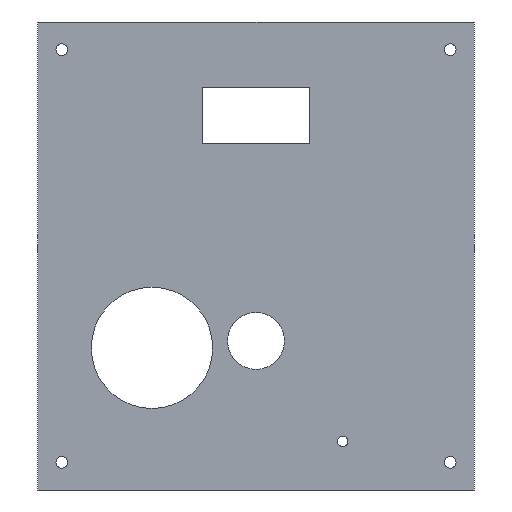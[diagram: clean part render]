
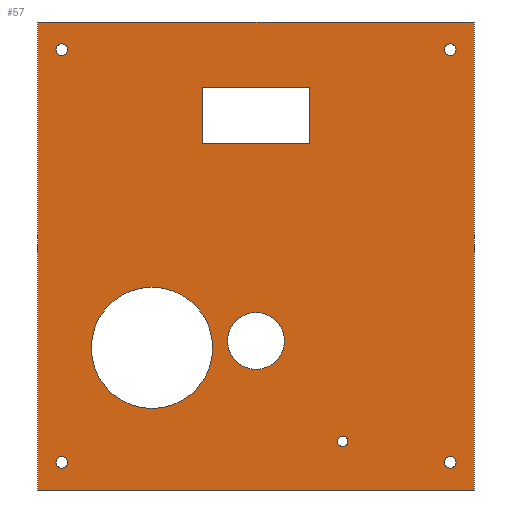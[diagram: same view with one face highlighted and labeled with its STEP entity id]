
A CAD part, front view. The second image highlights one B-rep face of the part: STEP entity #57.
In plain terms, the highlighted planar face has unit normal (0, -1, 0).
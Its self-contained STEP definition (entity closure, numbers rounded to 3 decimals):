
#21 = EDGE_CURVE('',#22,#24,#26,.T.);
#22 = VERTEX_POINT('',#23);
#23 = CARTESIAN_POINT('',(-63.,0.,206.));
#24 = VERTEX_POINT('',#25);
#25 = CARTESIAN_POINT('',(-63.,0.,341.));
#26 = LINE('',#27,#28);
#27 = CARTESIAN_POINT('',(-63.,0.,206.));
#28 = VECTOR('',#29,1.);
#29 = DIRECTION('',(0.,0.,1.));
#57 = ADVANCED_FACE('',(#58,#83,#94,#105,#116,#127,#138,#149,#183),#194,
  .F.);
#58 = FACE_BOUND('',#59,.F.);
#59 = EDGE_LOOP('',(#60,#68,#69,#77));
#60 = ORIENTED_EDGE('',*,*,#61,.F.);
#61 = EDGE_CURVE('',#22,#62,#64,.T.);
#62 = VERTEX_POINT('',#63);
#63 = CARTESIAN_POINT('',(63.,0.,206.));
#64 = LINE('',#65,#66);
#65 = CARTESIAN_POINT('',(-63.,0.,206.));
#66 = VECTOR('',#67,1.);
#67 = DIRECTION('',(1.,0.,0.));
#68 = ORIENTED_EDGE('',*,*,#21,.T.);
#69 = ORIENTED_EDGE('',*,*,#70,.T.);
#70 = EDGE_CURVE('',#24,#71,#73,.T.);
#71 = VERTEX_POINT('',#72);
#72 = CARTESIAN_POINT('',(63.,0.,341.));
#73 = LINE('',#74,#75);
#74 = CARTESIAN_POINT('',(-63.,0.,341.));
#75 = VECTOR('',#76,1.);
#76 = DIRECTION('',(1.,0.,0.));
#77 = ORIENTED_EDGE('',*,*,#78,.F.);
#78 = EDGE_CURVE('',#62,#71,#79,.T.);
#79 = LINE('',#80,#81);
#80 = CARTESIAN_POINT('',(63.,0.,206.));
#81 = VECTOR('',#82,1.);
#82 = DIRECTION('',(0.,0.,1.));
#83 = FACE_BOUND('',#84,.F.);
#84 = EDGE_LOOP('',(#85));
#85 = ORIENTED_EDGE('',*,*,#86,.F.);
#86 = EDGE_CURVE('',#87,#87,#89,.T.);
#87 = VERTEX_POINT('',#88);
#88 = CARTESIAN_POINT('',(-56.,0.,215.7));
#89 = CIRCLE('',#90,1.7);
#90 = AXIS2_PLACEMENT_3D('',#91,#92,#93);
#91 = CARTESIAN_POINT('',(-56.,0.,214.));
#92 = DIRECTION('',(0.,1.,0.));
#93 = DIRECTION('',(0.,0.,1.));
#94 = FACE_BOUND('',#95,.F.);
#95 = EDGE_LOOP('',(#96));
#96 = ORIENTED_EDGE('',*,*,#97,.F.);
#97 = EDGE_CURVE('',#98,#98,#100,.T.);
#98 = VERTEX_POINT('',#99);
#99 = CARTESIAN_POINT('',(-30.,0.,264.5));
#100 = CIRCLE('',#101,17.5);
#101 = AXIS2_PLACEMENT_3D('',#102,#103,#104);
#102 = CARTESIAN_POINT('',(-30.,0.,247.));
#103 = DIRECTION('',(0.,1.,0.));
#104 = DIRECTION('',(0.,0.,1.));
#105 = FACE_BOUND('',#106,.F.);
#106 = EDGE_LOOP('',(#107));
#107 = ORIENTED_EDGE('',*,*,#108,.F.);
#108 = EDGE_CURVE('',#109,#109,#111,.T.);
#109 = VERTEX_POINT('',#110);
#110 = CARTESIAN_POINT('',(-56.,0.,334.7));
#111 = CIRCLE('',#112,1.7);
#112 = AXIS2_PLACEMENT_3D('',#113,#114,#115);
#113 = CARTESIAN_POINT('',(-56.,0.,333.));
#114 = DIRECTION('',(0.,1.,0.));
#115 = DIRECTION('',(0.,0.,1.));
#116 = FACE_BOUND('',#117,.F.);
#117 = EDGE_LOOP('',(#118));
#118 = ORIENTED_EDGE('',*,*,#119,.F.);
#119 = EDGE_CURVE('',#120,#120,#122,.T.);
#120 = VERTEX_POINT('',#121);
#121 = CARTESIAN_POINT('',(25.,0.,221.5));
#122 = CIRCLE('',#123,1.5);
#123 = AXIS2_PLACEMENT_3D('',#124,#125,#126);
#124 = CARTESIAN_POINT('',(25.,0.,220.));
#125 = DIRECTION('',(0.,1.,0.));
#126 = DIRECTION('',(0.,0.,1.));
#127 = FACE_BOUND('',#128,.F.);
#128 = EDGE_LOOP('',(#129));
#129 = ORIENTED_EDGE('',*,*,#130,.F.);
#130 = EDGE_CURVE('',#131,#131,#133,.T.);
#131 = VERTEX_POINT('',#132);
#132 = CARTESIAN_POINT('',(0.,0.,257.2));
#133 = CIRCLE('',#134,8.2);
#134 = AXIS2_PLACEMENT_3D('',#135,#136,#137);
#135 = CARTESIAN_POINT('',(0.,0.,249.));
#136 = DIRECTION('',(0.,1.,0.));
#137 = DIRECTION('',(0.,0.,1.));
#138 = FACE_BOUND('',#139,.F.);
#139 = EDGE_LOOP('',(#140));
#140 = ORIENTED_EDGE('',*,*,#141,.F.);
#141 = EDGE_CURVE('',#142,#142,#144,.T.);
#142 = VERTEX_POINT('',#143);
#143 = CARTESIAN_POINT('',(56.,0.,215.7));
#144 = CIRCLE('',#145,1.7);
#145 = AXIS2_PLACEMENT_3D('',#146,#147,#148);
#146 = CARTESIAN_POINT('',(56.,0.,214.));
#147 = DIRECTION('',(0.,1.,0.));
#148 = DIRECTION('',(0.,0.,1.));
#149 = FACE_BOUND('',#150,.F.);
#150 = EDGE_LOOP('',(#151,#161,#169,#177));
#151 = ORIENTED_EDGE('',*,*,#152,.F.);
#152 = EDGE_CURVE('',#153,#155,#157,.T.);
#153 = VERTEX_POINT('',#154);
#154 = CARTESIAN_POINT('',(-15.5,0.,322.15));
#155 = VERTEX_POINT('',#156);
#156 = CARTESIAN_POINT('',(15.5,0.,322.15));
#157 = LINE('',#158,#159);
#158 = CARTESIAN_POINT('',(-39.25,0.,322.15));
#159 = VECTOR('',#160,1.);
#160 = DIRECTION('',(1.,0.,0.));
#161 = ORIENTED_EDGE('',*,*,#162,.T.);
#162 = EDGE_CURVE('',#153,#163,#165,.T.);
#163 = VERTEX_POINT('',#164);
#164 = CARTESIAN_POINT('',(-15.5,0.,305.85));
#165 = LINE('',#166,#167);
#166 = CARTESIAN_POINT('',(-15.5,0.,255.925));
#167 = VECTOR('',#168,1.);
#168 = DIRECTION('',(0.,0.,-1.));
#169 = ORIENTED_EDGE('',*,*,#170,.T.);
#170 = EDGE_CURVE('',#163,#171,#173,.T.);
#171 = VERTEX_POINT('',#172);
#172 = CARTESIAN_POINT('',(15.5,0.,305.85));
#173 = LINE('',#174,#175);
#174 = CARTESIAN_POINT('',(-39.25,0.,305.85));
#175 = VECTOR('',#176,1.);
#176 = DIRECTION('',(1.,0.,0.));
#177 = ORIENTED_EDGE('',*,*,#178,.F.);
#178 = EDGE_CURVE('',#155,#171,#179,.T.);
#179 = LINE('',#180,#181);
#180 = CARTESIAN_POINT('',(15.5,0.,255.925));
#181 = VECTOR('',#182,1.);
#182 = DIRECTION('',(0.,0.,-1.));
#183 = FACE_BOUND('',#184,.F.);
#184 = EDGE_LOOP('',(#185));
#185 = ORIENTED_EDGE('',*,*,#186,.F.);
#186 = EDGE_CURVE('',#187,#187,#189,.T.);
#187 = VERTEX_POINT('',#188);
#188 = CARTESIAN_POINT('',(56.,0.,334.7));
#189 = CIRCLE('',#190,1.7);
#190 = AXIS2_PLACEMENT_3D('',#191,#192,#193);
#191 = CARTESIAN_POINT('',(56.,0.,333.));
#192 = DIRECTION('',(0.,1.,0.));
#193 = DIRECTION('',(0.,0.,1.));
#194 = PLANE('',#195);
#195 = AXIS2_PLACEMENT_3D('',#196,#197,#198);
#196 = CARTESIAN_POINT('',(-63.,0.,206.));
#197 = DIRECTION('',(0.,1.,0.));
#198 = DIRECTION('',(0.,0.,1.));
